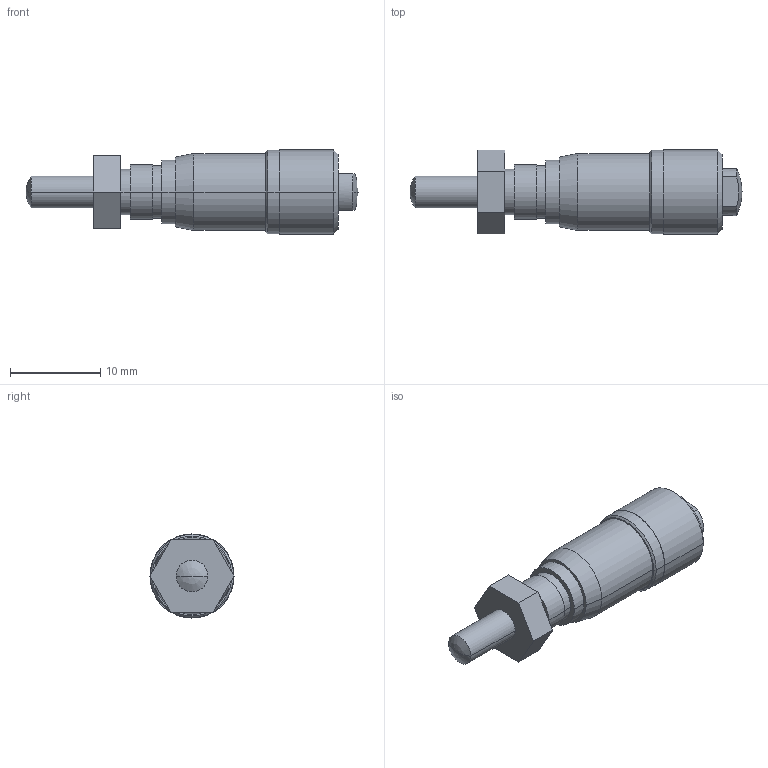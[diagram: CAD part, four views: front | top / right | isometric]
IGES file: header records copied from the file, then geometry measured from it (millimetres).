
Start section: Elysium IGES Interface
Global section: file name: 135HL:\商品設計部\部内\R_drv\99_受け渡しBOX\大竹\⇒賀藤さん\マイクロメータヘッド　CADデータ提供依頼\★3D_IGS完了\148-243-10_MHT4-6_5FPA.igs; native system: Creo Elements/Direct Modeling 18.1H  24-Oct-2015; preprocessor: Creo Element/Direct IGES_3D V2.2; author: Unknown; organization: Unknown; date: 20220926.144400; units: millimetre
Bounding box: 36.7 x 9.3 x 9.3 mm (x, y, z)
Volume: 1542 mm3; surface area: 989 mm2
Topology: 1 solids, 1 shells, 45 faces, 100 edges, 62 vertices
Faces by surface type: bspline 45
